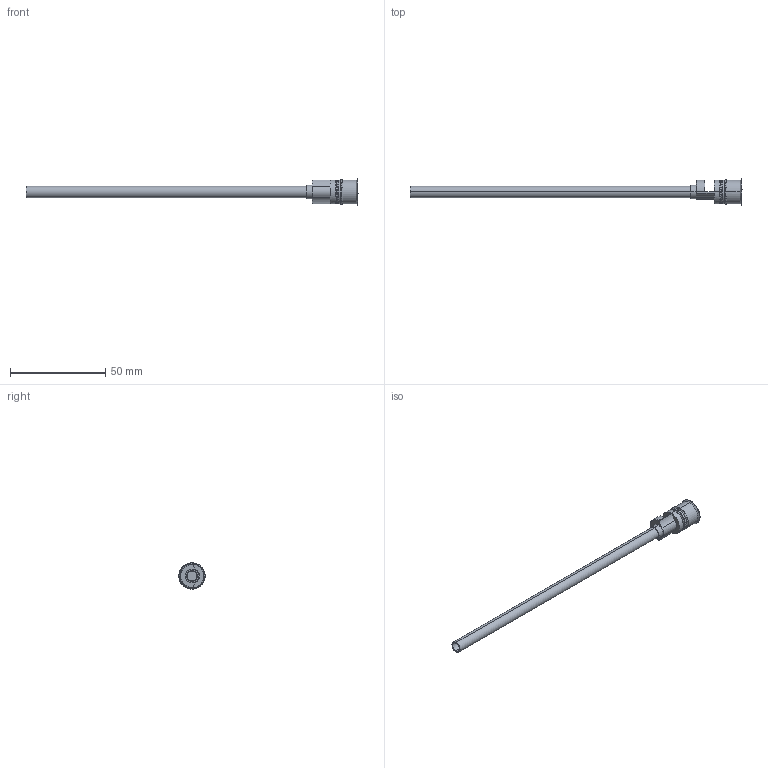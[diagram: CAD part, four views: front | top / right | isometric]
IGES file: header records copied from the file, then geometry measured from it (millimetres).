
Start section: START RECORD GO HERE.
Global section: file name: RF-12x150_6.igs; native system: DASSAULT SYSTEMES CATIA V5 R20 - www.3ds.com; preprocessor: CATIA Version 5 Release 20 ; author: Utente; organization: NB04-ASUS; date: 20210223.202743; units: millimetre
Bounding box: 174 x 13.8 x 13.8 mm (x, y, z)
Surface area: 6827.5 mm2 (no closed solid volume)
Topology: 0 solids, 0 shells, 68 faces, 384 edges, 384 vertices
Faces by surface type: revolution 42, plane 26
